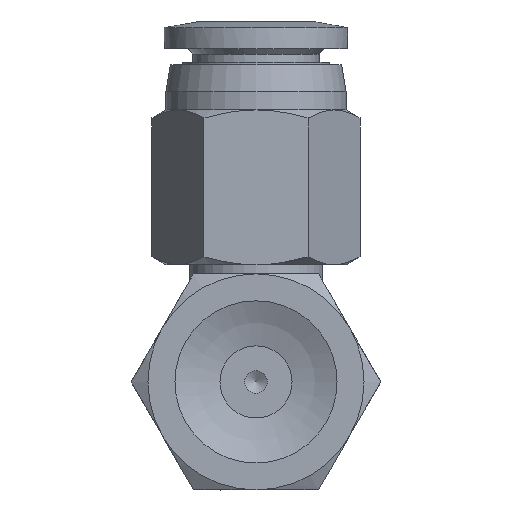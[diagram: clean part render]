
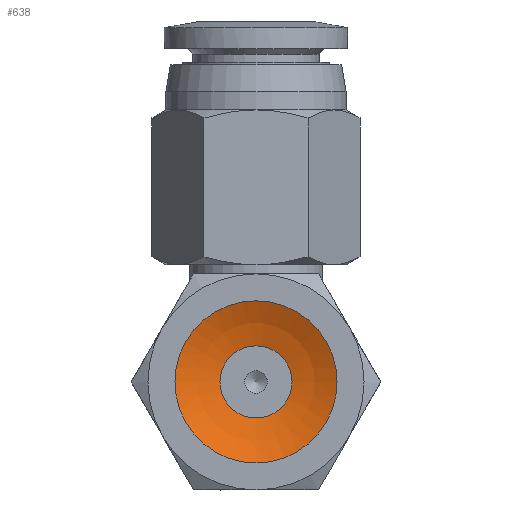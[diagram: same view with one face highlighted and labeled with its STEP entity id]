
A CAD part, front view. The second image highlights one B-rep face of the part: STEP entity #638.
In plain terms, the highlighted spherical face has radius 10.203 mm.
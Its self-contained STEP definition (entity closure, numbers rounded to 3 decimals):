
#638=ADVANCED_FACE('',(#1007,#1008),#1009,.F.);
#1007=FACE_OUTER_BOUND('',#1471,.T.);
#1008=FACE_OUTER_BOUND('',#1472,.T.);
#1009=SPHERICAL_SURFACE('',#1473,10.203);
#1471=EDGE_LOOP('',(#2655));
#1472=EDGE_LOOP('',(#2656));
#1473=AXIS2_PLACEMENT_3D('',#2657,#2658,#2659);
#2655=ORIENTED_EDGE('',*,*,#3243,.T.);
#2656=ORIENTED_EDGE('',*,*,#3244,.F.);
#2657=CARTESIAN_POINT('',(0.,-9.157,0.));
#2658=DIRECTION('',(0.0,-1.0,0.));
#2659=DIRECTION('',(1.0,0.0,0.0));
#3243=EDGE_CURVE('',#3713,#3713,#3714,.T.);
#3244=EDGE_CURVE('',#3715,#3715,#3716,.T.);
#3713=VERTEX_POINT('',#4829);
#3714=CIRCLE('',#4830,4.5);
#3715=VERTEX_POINT('',#4831);
#3716=CIRCLE('',#4832,2.);
#4829=CARTESIAN_POINT('',(0.0,0.,-4.5));
#4830=AXIS2_PLACEMENT_3D('',#5654,#5655,#5656);
#4831=CARTESIAN_POINT('',(0.0,0.848,-2.));
#4832=AXIS2_PLACEMENT_3D('',#5657,#5658,#5659);
#5654=CARTESIAN_POINT('',(0.0,0.,0.0));
#5655=DIRECTION('',(0.0,-1.0,0.));
#5656=DIRECTION('',(0.0,0.,-1.0));
#5657=CARTESIAN_POINT('',(0.0,0.848,0.0));
#5658=DIRECTION('',(0.0,-1.0,0.));
#5659=DIRECTION('',(0.0,0.,-1.0));
